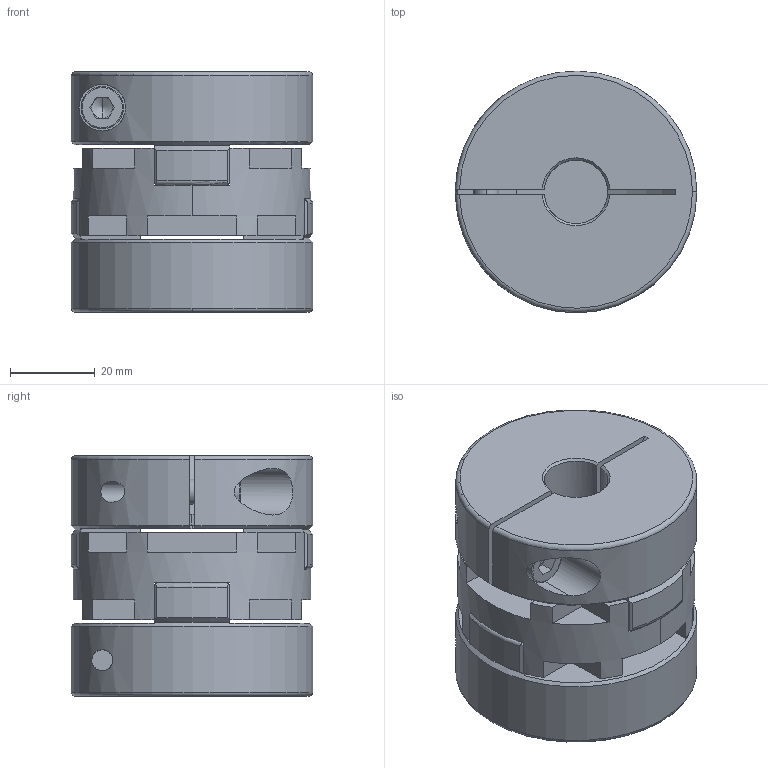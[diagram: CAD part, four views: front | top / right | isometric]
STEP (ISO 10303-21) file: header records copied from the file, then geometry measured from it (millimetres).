
FILE_DESCRIPTION (( 'STEP AP203' ), '1' );
FILE_NAME ('SOHM-57C-15X28_203.STEP', '2013-01-29T06:08:19', ( '' ), ( '' ), 'SwSTEP 2.0', 'SolidWorks 2012', '' );
FILE_SCHEMA (( 'CONFIG_CONTROL_DESIGN' ));
Length unit declared in the file: millimetre
Products named in the file (1): SOHM-57C-15X28_203
Bounding box: 57 x 57 x 56.8 mm (x, y, z)
Volume: 104222.4 mm3; surface area: 29592.8 mm2
Topology: 1 solids, 1 shells, 240 faces, 685 edges, 435 vertices
Faces by surface type: plane 146, cylinder 47, torus 24, cone 23
Entity records: 8329 total; most frequent: CARTESIAN_POINT 1982, ORIENTED_EDGE 1362, DIRECTION 1276, EDGE_CURVE 681, AXIS2_PLACEMENT_3D 437, VERTEX_POINT 435, LINE 402, VECTOR 402
